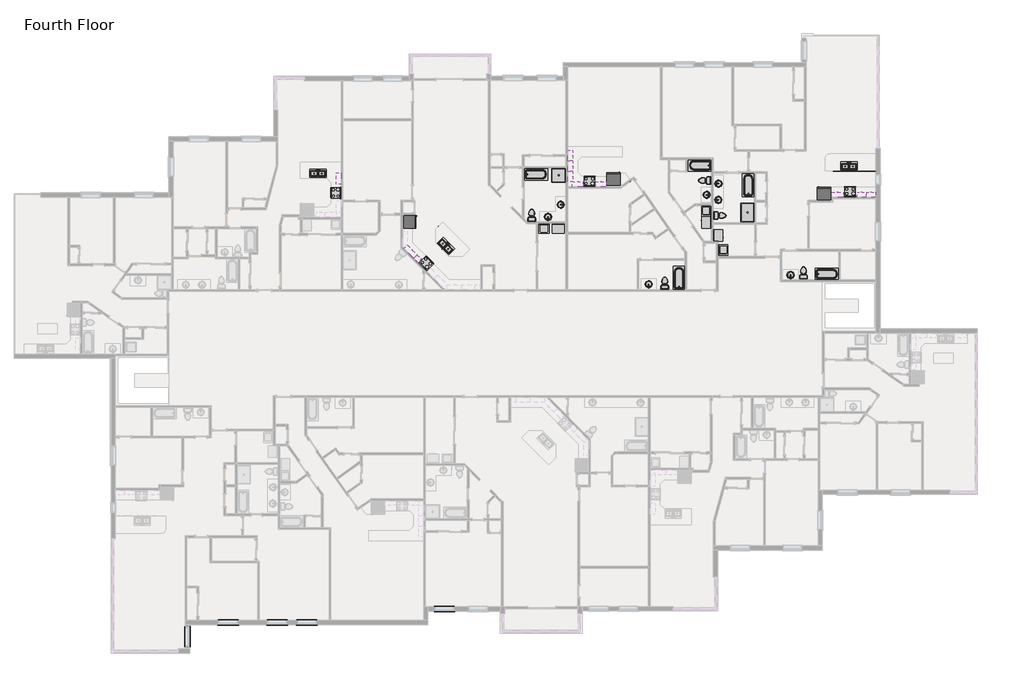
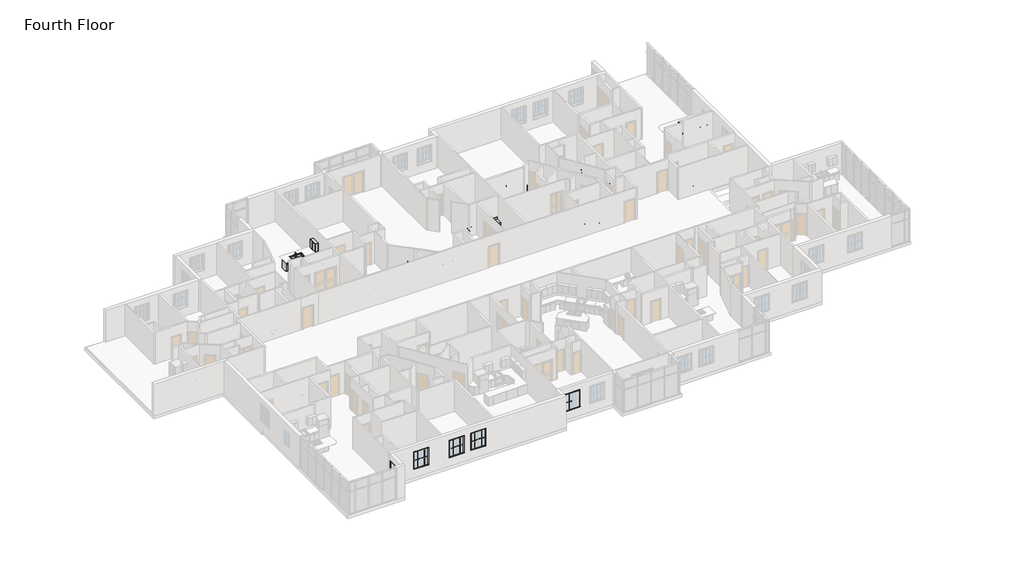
# One storey, part 16 of 17: 50 furniture elements, 32 proxies, 22 flow terminals.
"""IFC4 building model written with IfcOpenShell, lengths in millimetres."""

from ifc_helpers import new_model, si_unit, origin, place, context, project, spatial, transform, mapped, element, save
from components import proxy_6b4a07a9, muntin_pattern_2x2_muntin_pattern_2x2_6dad3731, muntin_pattern_2x2_muntin_pattern_2x2_a30a3345, proxy_fbb4c072, proxy_93150df1, proxy_9109806d, trim_window_exterior_flat_with_sill_92b9b949, trim_window_interior_flat_picture_frame_3bb882cf, proxy_718fa39f, flow_terminal_54cced83, flow_terminal_5dba0d75, flow_terminal_a53be723, flow_terminal_d49f872f, toilet_domestic_3d_toilet_domestic_3d_f7549cf7, toilet_domestic_3d_toilet_domestic_3d_183bbd19, tub_rectangular_3d_tub_rectangular_3d_72a4d900, tub_rectangular_3d_tub_rectangular_3d_cbc2c449, furniture_0fc2bd2a, furniture_337523c0, furniture_6e8794dd, furniture_07bc9410, furniture_6ace90bf, furniture_b282fead, furniture_6a014568, furniture_338da5bd, furniture_b74d3f52, furniture_7de88fd5, furniture_b4094f2d, furniture_07c0da44, furniture_bfd559e3, base_cabinet_filler_base_cabinet_filler_dff9ed13, base_cabinet_filler_base_cabinet_filler_01d9e414, base_cabinet_filler_base_cabinet_filler_890d7b95, base_cabinet_filler_base_cabinet_filler_ec835e29, base_cabinet_filler_base_cabinet_filler_5f1ac9d6, base_cabinet_filler_base_cabinet_filler_783ad0b1, base_cabinet_filler_base_cabinet_filler_ca2a3ea1, furniture_de2c603d, furniture_a8c34398, furniture_09d05a5b, furniture_b1f16c95, furniture_c6a3367d, furniture_a47b5ef4, furniture_9117db5d, furniture_b34976c1

model = new_model("IFC4")

# Units and contexts
model_context = context("Model", 3, world=origin())
ifc_project = project(units=[si_unit("LENGTHUNIT", "METRE", prefix="MILLI")], contexts=[model_context])

# Site, building, storey
site = spatial("IfcSite", under=ifc_project)
building = spatial("IfcBuilding", under=site)
storey = spatial("IfcBuildingStorey", under=building, Name="Fourth Floor", Elevation=9144.0)

# Proxies
placement = place(None, origin())
proxy_shape = proxy_6b4a07a9(model_context)
element("IfcBuildingElementProxy", 1, Name="Dryer : 30\" x 25\" x 35\"", ObjectType="Dryer : 30\" x 25\" x 35\"", at=placement, inside=storey, context=model_context, shape_type="MappedRepresentation", body=[
    mapped(proxy_shape, transform((35783.3803438, 6069.89864, 9144.0), x_axis=(1.0, 0.0, 0.0), y_axis=(0.0, 1.0, 0.0), z_axis=(0.0, 0.0, 1.0))),
])
element("IfcBuildingElementProxy", 2, Name="Dryer : 30\" x 25\" x 35\"", ObjectType="Dryer : 30\" x 25\" x 35\"", at=placement, inside=storey, context=model_context, shape_type="MappedRepresentation", body=[
    mapped(proxy_shape, transform((45605.9742487, 7175.2177628, 9144.0), x_axis=(0.0, -1.0, 0.0), y_axis=(1.0, 0.0, 0.0), z_axis=(0.0, 0.0, 1.0))),
])
element("IfcBuildingElementProxy", 3, Name="Dryer : 30\" x 25\" x 35\"", ObjectType="Dryer : 30\" x 25\" x 35\"", at=placement, inside=storey, context=model_context, shape_type="MappedRepresentation", body=[
    mapped(proxy_shape, transform((46984.5962563, 5488.2018914, 9144.0), x_axis=(0.0, 1.0, 0.0), y_axis=(-1.0, 0.0, 0.0), z_axis=(0.0, 0.0, 1.0))),
])
muntin_pattern_2x2_muntin_pattern_2x2_shape = muntin_pattern_2x2_muntin_pattern_2x2_6dad3731(model_context)
element("IfcBuildingElementProxy", 4, Name="Muntin Pattern_2x2 : Muntin Pattern_2x2", ObjectType="Muntin Pattern_2x2 : Muntin Pattern_2x2", at=placement, inside=storey, context=model_context, shape_type="MappedRepresentation", body=[
    mapped(muntin_pattern_2x2_muntin_pattern_2x2_shape, transform((20022.0240862, -19586.3365506, 10128.25), x_axis=(-1.0, 0.0, 0.0), y_axis=(0.0, -1.0, 0.0), z_axis=(0.0, 0.0, 1.0))),
])
element("IfcBuildingElementProxy", 5, Name="Muntin Pattern_2x2 : Muntin Pattern_2x2", ObjectType="Muntin Pattern_2x2 : Muntin Pattern_2x2", at=placement, inside=storey, context=model_context, shape_type="MappedRepresentation", body=[
    mapped(muntin_pattern_2x2_muntin_pattern_2x2_shape, transform((14867.9478712, -19586.3365506, 10128.25), x_axis=(-1.0, 0.0, 0.0), y_axis=(0.0, -1.0, 0.0), z_axis=(0.0, 0.0, 1.0))),
])
element("IfcBuildingElementProxy", 6, Name="Muntin Pattern_2x2 : Muntin Pattern_2x2", ObjectType="Muntin Pattern_2x2 : Muntin Pattern_2x2", at=placement, inside=storey, context=model_context, shape_type="MappedRepresentation", body=[
    mapped(muntin_pattern_2x2_muntin_pattern_2x2_shape, transform((18076.672872, -19586.3365506, 10128.25), x_axis=(-1.0, 0.0, 0.0), y_axis=(0.0, -1.0, 0.0), z_axis=(0.0, 0.0, 1.0))),
])
element("IfcBuildingElementProxy", 7, Name="Muntin Pattern_2x2 : Muntin Pattern_2x2", ObjectType="Muntin Pattern_2x2 : Muntin Pattern_2x2", at=placement, inside=storey, context=model_context, shape_type="MappedRepresentation", body=[
    mapped(muntin_pattern_2x2_muntin_pattern_2x2_shape, transform((12023.5634633, -20077.9243287, 10128.25), x_axis=(0.0, -1.0, 0.0), y_axis=(1.0, 0.0, 0.0), z_axis=(0.0, 0.0, 1.0))),
])
muntin_pattern_2x2_muntin_pattern_2x2_2_shape = muntin_pattern_2x2_muntin_pattern_2x2_a30a3345(model_context)
element("IfcBuildingElementProxy", 8, Name="Muntin Pattern_2x2 : Muntin Pattern_2x2", ObjectType="Muntin Pattern_2x2 : Muntin Pattern_2x2", at=placement, inside=storey, context=model_context, shape_type="MappedRepresentation", body=[
    mapped(muntin_pattern_2x2_muntin_pattern_2x2_2_shape, transform((19415.5990862, -19586.3365506, 10128.25), x_axis=(1.0, 0.0, 0.0), y_axis=(0.0, 1.0, 0.0), z_axis=(0.0, 0.0, 1.0))),
])
element("IfcBuildingElementProxy", 9, Name="Muntin Pattern_2x2 : Muntin Pattern_2x2", ObjectType="Muntin Pattern_2x2 : Muntin Pattern_2x2", at=placement, inside=storey, context=model_context, shape_type="MappedRepresentation", body=[
    mapped(muntin_pattern_2x2_muntin_pattern_2x2_2_shape, transform((14261.5228712, -19586.3365506, 10128.25), x_axis=(1.0, 0.0, 0.0), y_axis=(0.0, 1.0, 0.0), z_axis=(0.0, 0.0, 1.0))),
])
element("IfcBuildingElementProxy", 10, Name="Muntin Pattern_2x2 : Muntin Pattern_2x2", ObjectType="Muntin Pattern_2x2 : Muntin Pattern_2x2", at=placement, inside=storey, context=model_context, shape_type="MappedRepresentation", body=[
    mapped(muntin_pattern_2x2_muntin_pattern_2x2_2_shape, transform((28431.0115862, -18699.3191587, 10128.25), x_axis=(1.0, 0.0, 0.0), y_axis=(0.0, 1.0, 0.0), z_axis=(0.0, 0.0, 1.0))),
])
element("IfcBuildingElementProxy", 11, Name="Muntin Pattern_2x2 : Muntin Pattern_2x2", ObjectType="Muntin Pattern_2x2 : Muntin Pattern_2x2", at=placement, inside=storey, context=model_context, shape_type="MappedRepresentation", body=[
    mapped(muntin_pattern_2x2_muntin_pattern_2x2_2_shape, transform((17470.247872, -19586.3365506, 10128.25), x_axis=(1.0, 0.0, 0.0), y_axis=(0.0, 1.0, 0.0), z_axis=(0.0, 0.0, 1.0))),
])
element("IfcBuildingElementProxy", 12, Name="Muntin Pattern_2x2 : Muntin Pattern_2x2", ObjectType="Muntin Pattern_2x2 : Muntin Pattern_2x2", at=placement, inside=storey, context=model_context, shape_type="MappedRepresentation", body=[
    mapped(muntin_pattern_2x2_muntin_pattern_2x2_2_shape, transform((12023.5634633, -20684.3493287, 10128.25), x_axis=(0.0, 1.0, 0.0), y_axis=(-1.0, 0.0, 0.0), z_axis=(0.0, 0.0, 1.0))),
])
proxy_2_shape = proxy_fbb4c072(model_context)
element("IfcBuildingElementProxy", 13, Name="Range : 30\" x 26\"", ObjectType="Range : 30\" x 26\"", at=placement, inside=storey, context=model_context, shape_type="MappedRepresentation", body=[
    mapped(proxy_2_shape, transform((55706.1485135, 9105.3667096, 9144.0), x_axis=(-1.0, 0.0, 0.0), y_axis=(0.0, -1.0, 0.0), z_axis=(0.0, 0.0, 1.0))),
])
element("IfcBuildingElementProxy", 14, Name="Range : 30\" x 26\"", ObjectType="Range : 30\" x 26\"", at=placement, inside=storey, context=model_context, shape_type="MappedRepresentation", body=[
    mapped(proxy_2_shape, transform((38622.0783397, 9780.1410099, 9144.0), x_axis=(-1.0, 0.0, 0.0), y_axis=(0.0, -1.0, 0.0), z_axis=(0.0, 0.0, 1.0))),
])
element("IfcBuildingElementProxy", 15, Name="Range : 30\" x 26\"", ObjectType="Range : 30\" x 26\"", at=placement, inside=storey, context=model_context, shape_type="MappedRepresentation", body=[
    mapped(proxy_2_shape, transform((28043.6511381, 4045.4027795, 9144.0), x_axis=(-0.7071067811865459, 0.7071067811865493, 0.0), y_axis=(-0.7071067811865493, -0.7071067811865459, 0.0), z_axis=(0.0, 0.0, 1.0))),
])
element("IfcBuildingElementProxy", 16, Name="Range : 30\" x 26\"", ObjectType="Range : 30\" x 26\"", at=placement, inside=storey, context=model_context, shape_type="MappedRepresentation", body=[
    mapped(proxy_2_shape, transform((21305.5073571, 9084.405075, 9144.0), x_axis=(0.0, -1.0, 0.0), y_axis=(1.0, 0.0, 0.0), z_axis=(0.0, 0.0, 1.0))),
])
proxy_3_shape = proxy_93150df1(model_context)
element("IfcBuildingElementProxy", 17, Name="Refrigerator : 35\" x 32\" LH", ObjectType="Refrigerator : 35\" x 32\" LH", at=placement, inside=storey, context=model_context, shape_type="MappedRepresentation", body=[
    mapped(proxy_3_shape, transform((39817.0847694, 9590.3888634, 9144.0), x_axis=(-1.0, 0.0, 0.0), y_axis=(0.0, -1.0, 0.0), z_axis=(0.0, 0.0, 1.0))),
])
proxy_4_shape = proxy_9109806d(model_context)
element("IfcBuildingElementProxy", 18, Name="Refrigerator : 35\" x 32\" RH", ObjectType="Refrigerator : 35\" x 32\" RH", at=placement, inside=storey, context=model_context, shape_type="MappedRepresentation", body=[
    mapped(proxy_4_shape, transform((53624.9360135, 8648.9949749, 9144.0), x_axis=(-1.0, 0.0, 0.0), y_axis=(0.0, -1.0, 0.0), z_axis=(0.0, 0.0, 1.0))),
])
element("IfcBuildingElementProxy", 19, Name="Refrigerator : 35\" x 32\" RH", ObjectType="Refrigerator : 35\" x 32\" RH", at=placement, inside=storey, context=model_context, shape_type="MappedRepresentation", body=[
    mapped(proxy_4_shape, transform((26450.70388, 6811.7574244, 9144.0), x_axis=(0.0020172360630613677, 0.9999979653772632, 0.0), y_axis=(-0.9999979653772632, 0.0020172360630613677, 0.0), z_axis=(0.0, 0.0, 1.0))),
])
trim_window_exterior_flat_with_sill_shape = trim_window_exterior_flat_with_sill_92b9b949(model_context)
element("IfcBuildingElementProxy", 20, Name="Trim-Window-Exterior-Flat : with Sill", ObjectType="Trim-Window-Exterior-Flat : with Sill", at=placement, inside=storey, context=model_context, shape_type="MappedRepresentation", body=[
    mapped(trim_window_exterior_flat_with_sill_shape, transform((19718.8115862, -19595.8615506, 11582.4), x_axis=(1.0, 0.0, 0.0), y_axis=(0.0, 0.0, 1.0), z_axis=(0.0, -1.0, 0.0))),
])
element("IfcBuildingElementProxy", 21, Name="Trim-Window-Exterior-Flat : with Sill", ObjectType="Trim-Window-Exterior-Flat : with Sill", at=placement, inside=storey, context=model_context, shape_type="MappedRepresentation", body=[
    mapped(trim_window_exterior_flat_with_sill_shape, transform((14564.7353712, -19595.8615506, 11582.4), x_axis=(1.0, 0.0, 0.0), y_axis=(0.0, 0.0, 1.0), z_axis=(0.0, -1.0, 0.0))),
])
element("IfcBuildingElementProxy", 22, Name="Trim-Window-Exterior-Flat : with Sill", ObjectType="Trim-Window-Exterior-Flat : with Sill", at=placement, inside=storey, context=model_context, shape_type="MappedRepresentation", body=[
    mapped(trim_window_exterior_flat_with_sill_shape, transform((28734.2240862, -18708.8441587, 11582.4), x_axis=(1.0, 0.0, 0.0), y_axis=(0.0, 0.0, 1.0), z_axis=(0.0, -1.0, 0.0))),
])
element("IfcBuildingElementProxy", 23, Name="Trim-Window-Exterior-Flat : with Sill", ObjectType="Trim-Window-Exterior-Flat : with Sill", at=placement, inside=storey, context=model_context, shape_type="MappedRepresentation", body=[
    mapped(trim_window_exterior_flat_with_sill_shape, transform((17773.460372, -19595.8615506, 11582.4), x_axis=(1.0, 0.0, 0.0), y_axis=(0.0, 0.0, 1.0), z_axis=(0.0, -1.0, 0.0))),
])
element("IfcBuildingElementProxy", 24, Name="Trim-Window-Exterior-Flat : with Sill", ObjectType="Trim-Window-Exterior-Flat : with Sill", at=placement, inside=storey, context=model_context, shape_type="MappedRepresentation", body=[
    mapped(trim_window_exterior_flat_with_sill_shape, transform((12033.0884633, -20381.1368287, 11582.4), x_axis=(0.0, 1.0, 0.0), y_axis=(0.0, 0.0, 1.0), z_axis=(1.0, 0.0, 0.0))),
])
trim_window_interior_flat_picture_frame_shape = trim_window_interior_flat_picture_frame_3bb882cf(model_context)
element("IfcBuildingElementProxy", 25, Name="Trim-Window-Interior-Flat : Picture Frame", ObjectType="Trim-Window-Interior-Flat : Picture Frame", at=placement, inside=storey, context=model_context, shape_type="MappedRepresentation", body=[
    mapped(trim_window_interior_flat_picture_frame_shape, transform((19718.8115862, -19313.2865506, 11582.4), x_axis=(-1.0, 0.0, 0.0), y_axis=(0.0, 0.0, 1.0), z_axis=(0.0, 1.0, 0.0))),
])
element("IfcBuildingElementProxy", 26, Name="Trim-Window-Interior-Flat : Picture Frame", ObjectType="Trim-Window-Interior-Flat : Picture Frame", at=placement, inside=storey, context=model_context, shape_type="MappedRepresentation", body=[
    mapped(trim_window_interior_flat_picture_frame_shape, transform((14564.7353712, -19313.2865506, 11582.4), x_axis=(-1.0, 0.0, 0.0), y_axis=(0.0, 0.0, 1.0), z_axis=(0.0, 1.0, 0.0))),
])
element("IfcBuildingElementProxy", 27, Name="Trim-Window-Interior-Flat : Picture Frame", ObjectType="Trim-Window-Interior-Flat : Picture Frame", at=placement, inside=storey, context=model_context, shape_type="MappedRepresentation", body=[
    mapped(trim_window_interior_flat_picture_frame_shape, transform((28734.2240862, -18426.2691587, 11582.4), x_axis=(-1.0, 0.0, 0.0), y_axis=(0.0, 0.0, 1.0), z_axis=(0.0, 1.0, 0.0))),
])
element("IfcBuildingElementProxy", 28, Name="Trim-Window-Interior-Flat : Picture Frame", ObjectType="Trim-Window-Interior-Flat : Picture Frame", at=placement, inside=storey, context=model_context, shape_type="MappedRepresentation", body=[
    mapped(trim_window_interior_flat_picture_frame_shape, transform((17773.460372, -19313.2865506, 11582.4), x_axis=(-1.0, 0.0, 0.0), y_axis=(0.0, 0.0, 1.0), z_axis=(0.0, 1.0, 0.0))),
])
element("IfcBuildingElementProxy", 29, Name="Trim-Window-Interior-Flat : Picture Frame", ObjectType="Trim-Window-Interior-Flat : Picture Frame", at=placement, inside=storey, context=model_context, shape_type="MappedRepresentation", body=[
    mapped(trim_window_interior_flat_picture_frame_shape, transform((11750.5134633, -20381.1368287, 11582.4), x_axis=(0.0, -1.0, 0.0), y_axis=(0.0, 0.0, 1.0), z_axis=(-1.0, 0.0, 0.0))),
])
proxy_5_shape = proxy_718fa39f(model_context)
element("IfcBuildingElementProxy", 30, Name="Washer : 27\" x 25\" x 35\"", ObjectType="Washer : 27\" x 25\" x 35\"", at=placement, inside=storey, context=model_context, shape_type="MappedRepresentation", body=[
    mapped(proxy_5_shape, transform((34845.0746645, 6105.410079, 9144.0), x_axis=(1.0, 0.0, 0.0), y_axis=(0.0, 1.0, 0.0), z_axis=(0.0, 0.0, 1.0))),
])
element("IfcBuildingElementProxy", 31, Name="Washer : 27\" x 25\" x 35\"", ObjectType="Washer : 27\" x 25\" x 35\"", at=placement, inside=storey, context=model_context, shape_type="MappedRepresentation", body=[
    mapped(proxy_5_shape, transform((47265.412252, 4547.012838, 9144.0), x_axis=(0.0, 1.0, 0.0), y_axis=(-1.0, 0.0, 0.0), z_axis=(0.0, 0.0, 1.0))),
])
element("IfcBuildingElementProxy", 32, Name="Washer : 27\" x 25\" x 35\"", ObjectType="Washer : 27\" x 25\" x 35\"", at=placement, inside=storey, context=model_context, shape_type="MappedRepresentation", body=[
    mapped(proxy_5_shape, transform((45641.4856877, 7942.380883, 9144.0), x_axis=(0.0, -1.0, 0.0), y_axis=(1.0, 0.0, 0.0), z_axis=(0.0, 0.0, 1.0))),
])

# Flow terminals
flow_terminal_shape = flow_terminal_54cced83(model_context)
element("IfcFlowTerminal", 33, ObjectType="Shower Base-3D : 36\" x 36\"", at=placement, inside=storey, context=model_context, shape_type="MappedRepresentation", body=[
    mapped(flow_terminal_shape, transform((36225.8678001, 9849.9910099, 9144.0), x_axis=(1.0, 0.0, 0.0), y_axis=(0.0, 1.0, 0.0), z_axis=(0.0, 0.0, 1.0))),
])
flow_terminal_2_shape = flow_terminal_5dba0d75(model_context)
element("IfcFlowTerminal", 34, ObjectType="Shower Base-3D : 48\" x 34\"", at=placement, inside=storey, context=model_context, shape_type="MappedRepresentation", body=[
    mapped(flow_terminal_2_shape, transform((48606.6852525, 7416.8, 9144.0), x_axis=(0.0, 1.0, 0.0), y_axis=(-1.0, 0.0, 0.0), z_axis=(0.0, 0.0, 1.0))),
])
flow_terminal_3_shape = flow_terminal_a53be723(model_context)
element("IfcFlowTerminal", 35, ObjectType="Sink Kitchen-Double : 42\" x 21\"", at=placement, inside=storey, context=model_context, shape_type="MappedRepresentation", body=[
    mapped(flow_terminal_3_shape, transform((55238.0740966, 10470.4786098, 9144.0), x_axis=(1.0, 0.0, 0.0), y_axis=(0.0, 1.0, 0.0), z_axis=(0.0, 0.0, 1.0))),
])
element("IfcFlowTerminal", 36, ObjectType="Sink Kitchen-Double : 42\" x 21\"", at=placement, inside=storey, context=model_context, shape_type="MappedRepresentation", body=[
    mapped(flow_terminal_3_shape, transform((28820.7305792, 5237.5515776, 9144.0), x_axis=(0.7071067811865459, -0.7071067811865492, 0.0), y_axis=(0.7071067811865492, 0.7071067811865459, 0.0), z_axis=(0.0, 0.0, 1.0))),
])
element("IfcFlowTerminal", 37, ObjectType="Sink Kitchen-Double : 42\" x 21\"", at=placement, inside=storey, context=model_context, shape_type="MappedRepresentation", body=[
    mapped(flow_terminal_3_shape, transform((20432.5681165, 9996.4596739, 9144.0), x_axis=(1.0, 0.0, 0.0), y_axis=(0.0, 1.0, 0.0), z_axis=(0.0, 0.0, 1.0))),
])
flow_terminal_4_shape = flow_terminal_d49f872f(model_context)
element("IfcFlowTerminal", 38, ObjectType="Sink Vanity-Round : 19\" x 19\"", at=placement, inside=storey, context=model_context, shape_type="MappedRepresentation", body=[
    mapped(flow_terminal_4_shape, transform((51518.9261462, 3402.5686234, 9144.0), x_axis=(-1.0, 0.0, 0.0), y_axis=(0.0, -1.0, 0.0), z_axis=(0.0, 0.0, 1.0))),
])
element("IfcFlowTerminal", 39, ObjectType="Sink Vanity-Round : 19\" x 19\"", at=placement, inside=storey, context=model_context, shape_type="MappedRepresentation", body=[
    mapped(flow_terminal_4_shape, transform((46769.360735, 8145.114969, 9144.0), x_axis=(0.0, 1.0, 0.0), y_axis=(-1.0, 0.0, 0.0), z_axis=(0.0, 0.0, 1.0))),
])
element("IfcFlowTerminal", 40, ObjectType="Sink Vanity-Round : 19\" x 19\"", at=placement, inside=storey, context=model_context, shape_type="MappedRepresentation", body=[
    mapped(flow_terminal_4_shape, transform((46781.1377403, 9211.914969, 9144.0), x_axis=(0.0, 1.0, 0.0), y_axis=(-1.0, 0.0, 0.0), z_axis=(0.0, 0.0, 1.0))),
])
element("IfcFlowTerminal", 41, ObjectType="Sink Vanity-Round : 19\" x 19\"", at=placement, inside=storey, context=model_context, shape_type="MappedRepresentation", body=[
    mapped(flow_terminal_4_shape, transform((42218.0028589, 2791.1233129, 9144.0), x_axis=(-1.0, 0.0, 0.0), y_axis=(0.0, -1.0, 0.0), z_axis=(0.0, 0.0, 1.0))),
])
element("IfcFlowTerminal", 42, ObjectType="Sink Vanity-Round : 19\" x 19\"", at=placement, inside=storey, context=model_context, shape_type="MappedRepresentation", body=[
    mapped(flow_terminal_4_shape, transform((36278.8834938, 8026.036859, 9144.0), x_axis=(-0.0012471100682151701, -0.9999992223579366, 0.0), y_axis=(0.9999992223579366, -0.0012471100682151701, 0.0), z_axis=(0.0, 0.0, 1.0))),
])
element("IfcFlowTerminal", 43, ObjectType="Sink Vanity-Round : 19\" x 19\"", at=placement, inside=storey, context=model_context, shape_type="MappedRepresentation", body=[
    mapped(flow_terminal_4_shape, transform((35619.8891254, 7212.353211, 9144.0), x_axis=(-0.9999968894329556, 0.002494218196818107, 0.0), y_axis=(-0.002494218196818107, -0.9999968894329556, 0.0), z_axis=(0.0, 0.0, 1.0))),
])
element("IfcFlowTerminal", 44, ObjectType="Sink Vanity-Round : 19\" x 19\"", at=placement, inside=storey, context=model_context, shape_type="MappedRepresentation", body=[
    mapped(flow_terminal_4_shape, transform((45838.1211111, 8667.3095625, 9144.0), x_axis=(0.0, -1.0, 0.0), y_axis=(1.0, 0.0, 0.0), z_axis=(0.0, 0.0, 1.0))),
])
toilet_domestic_3d_toilet_domestic_3d_shape = toilet_domestic_3d_toilet_domestic_3d_f7549cf7(model_context)
toilet_domestic_3d_toilet_domestic_3d_2_shape = toilet_domestic_3d_toilet_domestic_3d_183bbd19(model_context)
element("IfcFlowTerminal", 45, ObjectType="Toilet-Domestic-3D : Toilet-Domestic-3D", at=placement, inside=storey, context=model_context, shape_type="MappedRepresentation", body=[
    mapped(toilet_domestic_3d_toilet_domestic_3d_shape, transform((52273.7982354, 3556.0, 9144.0), x_axis=(-1.0, 0.0, 0.0), y_axis=(0.0, -1.0, 0.0), z_axis=(0.0, 0.0, 1.0))),
    mapped(toilet_domestic_3d_toilet_domestic_3d_2_shape, transform((52273.7982354, 3556.0, 9144.0), x_axis=(-1.0, 0.0, 0.0), y_axis=(0.0, -1.0, 0.0), z_axis=(0.0, 0.0, 1.0))),
])
element("IfcFlowTerminal", 46, ObjectType="Toilet-Domestic-3D : Toilet-Domestic-3D", at=placement, inside=storey, context=model_context, shape_type="MappedRepresentation", body=[
    mapped(toilet_domestic_3d_toilet_domestic_3d_shape, transform((46888.4, 7213.6, 9144.0), x_axis=(0.0, 1.0, 0.0), y_axis=(-1.0, 0.0, 0.0), z_axis=(0.0, 0.0, 1.0))),
    mapped(toilet_domestic_3d_toilet_domestic_3d_2_shape, transform((46888.4, 7213.6, 9144.0), x_axis=(0.0, 1.0, 0.0), y_axis=(-1.0, 0.0, 0.0), z_axis=(0.0, 0.0, 1.0))),
])
element("IfcFlowTerminal", 47, ObjectType="Toilet-Domestic-3D : Toilet-Domestic-3D", at=placement, inside=storey, context=model_context, shape_type="MappedRepresentation", body=[
    mapped(toilet_domestic_3d_toilet_domestic_3d_shape, transform((45694.6, 9512.0893477, 9144.0), x_axis=(0.0, -1.0, 0.0), y_axis=(1.0, 0.0, 0.0), z_axis=(0.0, 0.0, 1.0))),
    mapped(toilet_domestic_3d_toilet_domestic_3d_2_shape, transform((45694.6, 9512.0893477, 9144.0), x_axis=(0.0, -1.0, 0.0), y_axis=(1.0, 0.0, 0.0), z_axis=(0.0, 0.0, 1.0))),
])
element("IfcFlowTerminal", 48, ObjectType="Toilet-Domestic-3D : Toilet-Domestic-3D", at=placement, inside=storey, context=model_context, shape_type="MappedRepresentation", body=[
    mapped(toilet_domestic_3d_toilet_domestic_3d_shape, transform((43180.0, 2882.9, 9144.0), x_axis=(-1.0, 0.0, 0.0), y_axis=(0.0, -1.0, 0.0), z_axis=(0.0, 0.0, 1.0))),
    mapped(toilet_domestic_3d_toilet_domestic_3d_2_shape, transform((43180.0, 2882.9, 9144.0), x_axis=(-1.0, 0.0, 0.0), y_axis=(0.0, -1.0, 0.0), z_axis=(0.0, 0.0, 1.0))),
])
element("IfcFlowTerminal", 49, ObjectType="Toilet-Domestic-3D : Toilet-Domestic-3D", at=placement, inside=storey, context=model_context, shape_type="MappedRepresentation", body=[
    mapped(toilet_domestic_3d_toilet_domestic_3d_shape, transform((34456.7727327, 7333.4715848, 9144.0), x_axis=(-1.0, 0.0, 0.0), y_axis=(0.0, -1.0, 0.0), z_axis=(0.0, 0.0, 1.0))),
    mapped(toilet_domestic_3d_toilet_domestic_3d_2_shape, transform((34456.7727327, 7333.4715848, 9144.0), x_axis=(-1.0, 0.0, 0.0), y_axis=(0.0, -1.0, 0.0), z_axis=(0.0, 0.0, 1.0))),
])
tub_rectangular_3d_tub_rectangular_3d_shape = tub_rectangular_3d_tub_rectangular_3d_72a4d900(model_context)
element("IfcFlowTerminal", 50, ObjectType="Tub-Rectangular-3D : Tub-Rectangular-3D", at=placement, inside=storey, context=model_context, shape_type="MappedRepresentation", body=[
    mapped(tub_rectangular_3d_tub_rectangular_3d_shape, transform((44549.1449591, 3463.6121401, 9144.0), x_axis=(0.0, 1.0, 0.0), y_axis=(-1.0, 0.0, 0.0), z_axis=(0.0, 0.0, 1.0))),
])
element("IfcFlowTerminal", 51, ObjectType="Tub-Rectangular-3D : Tub-Rectangular-3D", at=placement, inside=storey, context=model_context, shape_type="MappedRepresentation", body=[
    mapped(tub_rectangular_3d_tub_rectangular_3d_shape, transform((45138.2869119, 10944.1378349, 9144.0), x_axis=(-1.0, 0.0, 0.0), y_axis=(0.0, -1.0, 0.0), z_axis=(0.0, 0.0, 1.0))),
])
element("IfcFlowTerminal", 52, ObjectType="Tub-Rectangular-3D : Tub-Rectangular-3D", at=placement, inside=storey, context=model_context, shape_type="MappedRepresentation", body=[
    mapped(tub_rectangular_3d_tub_rectangular_3d_shape, transform((49089.4772963, 9555.5696783, 9144.0), x_axis=(0.0, 1.0, 0.0), y_axis=(-1.0, 0.0, 0.0), z_axis=(0.0, 0.0, 1.0))),
])
element("IfcFlowTerminal", 53, ObjectType="Tub-Rectangular-3D : Tub-Rectangular-3D", at=placement, inside=storey, context=model_context, shape_type="MappedRepresentation", body=[
    mapped(tub_rectangular_3d_tub_rectangular_3d_shape, transform((54149.0676523, 2945.4044819, 9144.0), x_axis=(1.0, 0.0, 0.0), y_axis=(0.0, 1.0, 0.0), z_axis=(0.0, 0.0, 1.0))),
])
tub_rectangular_3d_tub_rectangular_3d_2_shape = tub_rectangular_3d_tub_rectangular_3d_cbc2c449(model_context)
element("IfcFlowTerminal", 54, ObjectType="Tub-Rectangular-3D : Tub-Rectangular-3D", at=placement, inside=storey, context=model_context, shape_type="MappedRepresentation", body=[
    mapped(tub_rectangular_3d_tub_rectangular_3d_2_shape, transform((35083.0533193, 10357.9910099, 9144.0), x_axis=(1.0, 0.0, 0.0), y_axis=(0.0, 1.0, 0.0), z_axis=(0.0, 0.0, 1.0))),
])

# Furniture
furniture_shape = furniture_0fc2bd2a(model_context)
element("IfcFurniture", 55, ObjectType="Base Cabinet-Single Door & Drawer : 15\"'", at=placement, inside=storey, context=model_context, shape_type="MappedRepresentation", body=[
    mapped(furniture_shape, transform((56797.1256323, 10752.2240109, 9144.0), x_axis=(1.0, 0.0, 0.0), y_axis=(0.0, 1.0, 0.0), z_axis=(0.0, 0.0, 1.0))),
])
element("IfcFurniture", 56, ObjectType="Base Cabinet-Single Door & Drawer : 15\"'", at=placement, inside=storey, context=model_context, shape_type="MappedRepresentation", body=[
    mapped(furniture_shape, transform((26379.2350583, 4778.534813, 9144.0), x_axis=(-0.7056789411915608, 0.7085317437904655, 0.0), y_axis=(-0.7085317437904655, -0.7056789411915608, 0.0), z_axis=(0.0, 0.0, 1.0))),
])
furniture_2_shape = furniture_337523c0(model_context)
element("IfcFurniture", 57, ObjectType="Base Cabinet-Single Door & Drawer : 12\"", at=placement, inside=storey, context=model_context, shape_type="MappedRepresentation", body=[
    mapped(furniture_2_shape, transform((21965.9073571, 8151.2673701, 9144.0), x_axis=(0.0, 1.0, 0.0), y_axis=(-1.0, 0.0, 0.0), z_axis=(0.0, 0.0, 1.0))),
])
furniture_3_shape = furniture_6e8794dd(model_context)
element("IfcFurniture", 58, ObjectType="Base Cabinet-Single Door & Drawer : 12\"", at=placement, inside=storey, context=model_context, shape_type="MappedRepresentation", body=[
    mapped(furniture_3_shape, transform((21965.9073571, 9255.5427799, 9144.0), x_axis=(0.0, -1.0, 0.0), y_axis=(1.0, 0.0, 0.0), z_axis=(0.0, 0.0, 1.0))),
])
furniture_4_shape = furniture_07bc9410(model_context)
element("IfcFurniture", 59, ObjectType="Base Cabinet-Single Door & Drawer : 18\"", at=placement, inside=storey, context=model_context, shape_type="MappedRepresentation", body=[
    mapped(furniture_4_shape, transform((56766.9108085, 8422.9542414, 9144.0), x_axis=(1.0, 0.0, 0.0), y_axis=(0.0, 1.0, 0.0), z_axis=(0.0, 0.0, 1.0))),
])
furniture_5_shape = furniture_6ace90bf(model_context)
element("IfcFurniture", 60, ObjectType="Base Cabinet-Single Door & Drawer : 18\"", at=placement, inside=storey, context=model_context, shape_type="MappedRepresentation", body=[
    mapped(furniture_5_shape, transform((54396.8256323, 10752.2240109, 9144.0), x_axis=(1.0, 0.0, 0.0), y_axis=(0.0, 1.0, 0.0), z_axis=(0.0, 0.0, 1.0))),
])
element("IfcFurniture", 61, ObjectType="Base Cabinet-Single Door & Drawer : 18\"", at=placement, inside=storey, context=model_context, shape_type="MappedRepresentation", body=[
    mapped(furniture_5_shape, transform((40152.0280135, 11733.611548, 9144.0), x_axis=(1.0, 0.0, 0.0), y_axis=(0.0, 1.0, 0.0), z_axis=(0.0, 0.0, 1.0))),
])
furniture_6_shape = furniture_b282fead(model_context)
element("IfcFurniture", 62, ObjectType="Base Cabinet-Single Door & Drawer : 21\"", at=placement, inside=storey, context=model_context, shape_type="MappedRepresentation", body=[
    mapped(furniture_6_shape, transform((19553.2196522, 10303.605075, 9144.0), x_axis=(1.0, 0.0, 0.0), y_axis=(0.0, 1.0, 0.0), z_axis=(0.0, 0.0, 1.0))),
])
furniture_7_shape = furniture_6a014568(model_context)
element("IfcFurniture", 63, ObjectType="Base Cabinet-Single Door & Drawer : 24\"", at=placement, inside=storey, context=model_context, shape_type="MappedRepresentation", body=[
    mapped(furniture_7_shape, transform((28846.7325549, 6103.4702041, 9144.0), x_axis=(-0.7071067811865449, -0.7071067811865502, 0.0), y_axis=(0.7071067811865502, -0.7071067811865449, 0.0), z_axis=(0.0, 0.0, 1.0))),
])
element("IfcFurniture", 64, ObjectType="Base Cabinet-Single Door & Drawer : 24\"", at=placement, inside=storey, context=model_context, shape_type="MappedRepresentation", body=[
    mapped(furniture_7_shape, transform((29682.3380261, 5214.8665001, 9144.0), x_axis=(0.7071067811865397, 0.7071067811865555, 0.0), y_axis=(-0.7071067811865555, 0.7071067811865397, 0.0), z_axis=(0.0, 0.0, 1.0))),
])
furniture_8_shape = furniture_338da5bd(model_context)
element("IfcFurniture", 65, ObjectType="Base Cabinet-Double Door & 2 Drawer : 30\"", at=placement, inside=storey, context=model_context, shape_type="MappedRepresentation", body=[
    mapped(furniture_8_shape, transform((56225.6256323, 10752.2240109, 9144.0), x_axis=(1.0, 0.0, 0.0), y_axis=(0.0, 1.0, 0.0), z_axis=(0.0, 0.0, 1.0))),
])
element("IfcFurniture", 66, ObjectType="Base Cabinet-Double Door & 2 Drawer : 30\"", at=placement, inside=storey, context=model_context, shape_type="MappedRepresentation", body=[
    mapped(furniture_8_shape, transform((36816.4178001, 10406.7738431, 9144.0), x_axis=(0.0, 1.0, 0.0), y_axis=(-1.0, 0.0, 0.0), z_axis=(0.0, 0.0, 1.0))),
])
element("IfcFurniture", 67, ObjectType="Base Cabinet-Double Door & 2 Drawer : 30\"", at=placement, inside=storey, context=model_context, shape_type="MappedRepresentation", body=[
    mapped(furniture_8_shape, transform((39016.6724743, 9119.7410099, 9144.0), x_axis=(-1.0, 0.0, 0.0), y_axis=(0.0, -1.0, 0.0), z_axis=(0.0, 0.0, 1.0))),
])
furniture_9_shape = furniture_b74d3f52(model_context)
element("IfcFurniture", 68, ObjectType="Base Cabinet-Double Door & 2 Drawer : 33\"", at=placement, inside=storey, context=model_context, shape_type="MappedRepresentation", body=[
    mapped(furniture_9_shape, transform((56106.5108085, 8422.9542414, 9144.0), x_axis=(1.0, 0.0, 0.0), y_axis=(0.0, 1.0, 0.0), z_axis=(0.0, 0.0, 1.0))),
])
furniture_10_shape = furniture_7de88fd5(model_context)
element("IfcFurniture", 69, ObjectType="Base Cabinet-Double Door & 2 Drawer : 33\"", at=placement, inside=storey, context=model_context, shape_type="MappedRepresentation", body=[
    mapped(furniture_10_shape, transform((54543.7862184, 8422.9542414, 9144.0), x_axis=(-1.0, 0.0, 0.0), y_axis=(0.0, -1.0, 0.0), z_axis=(0.0, 0.0, 1.0))),
])
furniture_11_shape = furniture_b4094f2d(model_context)
element("IfcFurniture", 70, ObjectType="Base Cabinet-Double Door & 2 Drawer : 39\"", at=placement, inside=storey, context=model_context, shape_type="MappedRepresentation", body=[
    mapped(furniture_11_shape, transform((38207.3800952, 11733.611548, 9144.0), x_axis=(1.0, 0.0, 0.0), y_axis=(0.0, 1.0, 0.0), z_axis=(0.0, 0.0, 1.0))),
])
furniture_12_shape = furniture_07c0da44(model_context)
element("IfcFurniture", 71, ObjectType="Base Cabinet-Double Door & 2 Drawer : 48\"", at=placement, inside=storey, context=model_context, shape_type="MappedRepresentation", body=[
    mapped(furniture_12_shape, transform((55235.0256323, 10752.2240109, 9144.0), x_axis=(1.0, 0.0, 0.0), y_axis=(0.0, 1.0, 0.0), z_axis=(0.0, 0.0, 1.0))),
])
element("IfcFurniture", 72, ObjectType="Base Cabinet-Double Door & 2 Drawer : 48\"", at=placement, inside=storey, context=model_context, shape_type="MappedRepresentation", body=[
    mapped(furniture_12_shape, transform((39313.8280135, 11733.611548, 9144.0), x_axis=(1.0, 0.0, 0.0), y_axis=(0.0, 1.0, 0.0), z_axis=(0.0, 0.0, 1.0))),
])
element("IfcFurniture", 73, ObjectType="Base Cabinet-Double Door & 2 Drawer : 48\"", at=placement, inside=storey, context=model_context, shape_type="MappedRepresentation", body=[
    mapped(furniture_12_shape, transform((29035.7595853, 5456.8917634, 9144.0), x_axis=(0.7071067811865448, -0.7071067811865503, 0.0), y_axis=(0.7071067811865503, 0.7071067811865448, 0.0), z_axis=(0.0, 0.0, 1.0))),
])
element("IfcFurniture", 74, ObjectType="Base Cabinet-Double Door & 2 Drawer : 48\"", at=placement, inside=storey, context=model_context, shape_type="MappedRepresentation", body=[
    mapped(furniture_12_shape, transform((29062.2587018, 5430.392647, 9144.0), x_axis=(-0.7071067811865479, 0.7071067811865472, 0.0), y_axis=(-0.7071067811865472, -0.7071067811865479, 0.0), z_axis=(0.0, 0.0, 1.0))),
])
element("IfcFurniture", 75, ObjectType="Base Cabinet-Double Door & 2 Drawer : 48\"", at=placement, inside=storey, context=model_context, shape_type="MappedRepresentation", body=[
    mapped(furniture_12_shape, transform((20429.5196522, 10303.605075, 9144.0), x_axis=(1.0, 0.0, 0.0), y_axis=(0.0, 1.0, 0.0), z_axis=(0.0, 0.0, 1.0))),
])
furniture_13_shape = furniture_bfd559e3(model_context)
element("IfcFurniture", 76, ObjectType="Base Cabinet-Corner Unit-Angled : 36\"", at=placement, inside=storey, context=model_context, shape_type="MappedRepresentation", body=[
    mapped(furniture_13_shape, transform((36816.4178001, 11206.8738431, 9144.0), x_axis=(0.0, 1.0, 0.0), y_axis=(-1.0, 0.0, 0.0), z_axis=(0.0, 0.0, 1.0))),
])
element("IfcFurniture", 77, ObjectType="Base Cabinet-Corner Unit-Angled : 36\"", at=placement, inside=storey, context=model_context, shape_type="MappedRepresentation", body=[
    mapped(furniture_13_shape, transform((37343.155505, 9119.7410099, 9144.0), x_axis=(-1.0, 0.0, 0.0), y_axis=(0.0, -1.0, 0.0), z_axis=(0.0, 0.0, 1.0))),
])
element("IfcFurniture", 78, ObjectType="Base Cabinet-Corner Unit-Angled : 36\"", at=placement, inside=storey, context=model_context, shape_type="MappedRepresentation", body=[
    mapped(furniture_13_shape, transform((21445.5196522, 10303.605075, 9144.0), x_axis=(1.0, 0.0, 0.0), y_axis=(0.0, 1.0, 0.0), z_axis=(0.0, 0.0, 1.0))),
])
base_cabinet_filler_base_cabinet_filler_shape = base_cabinet_filler_base_cabinet_filler_dff9ed13(model_context)
element("IfcFurniture", 79, ObjectType="Base Cabinet-Filler : Base Cabinet-Filler", at=placement, inside=storey, context=model_context, shape_type="MappedRepresentation", body=[
    mapped(base_cabinet_filler_base_cabinet_filler_shape, transform((56569.4362184, 8422.9542414, 9144.0), x_axis=(-1.0, 0.0, 0.0), y_axis=(0.0, -1.0, 0.0), z_axis=(0.0, 0.0, 1.0))),
])
element("IfcFurniture", 80, ObjectType="Base Cabinet-Filler : Base Cabinet-Filler", at=placement, inside=storey, context=model_context, shape_type="MappedRepresentation", body=[
    mapped(base_cabinet_filler_base_cabinet_filler_shape, transform((36816.4178001, 10794.1238431, 9144.0), x_axis=(0.0, 1.0, 0.0), y_axis=(-1.0, 0.0, 0.0), z_axis=(0.0, 0.0, 1.0))),
])
base_cabinet_filler_base_cabinet_filler_2_shape = base_cabinet_filler_base_cabinet_filler_01d9e414(model_context)
element("IfcFurniture", 81, ObjectType="Base Cabinet-Filler : Base Cabinet-Filler", at=placement, inside=storey, context=model_context, shape_type="MappedRepresentation", body=[
    mapped(base_cabinet_filler_base_cabinet_filler_2_shape, transform((54103.2549684, 8422.9542414, 9144.0), x_axis=(-1.0, 0.0, 0.0), y_axis=(0.0, -1.0, 0.0), z_axis=(0.0, 0.0, 1.0))),
])
base_cabinet_filler_base_cabinet_filler_3_shape = base_cabinet_filler_base_cabinet_filler_890d7b95(model_context)
element("IfcFurniture", 82, ObjectType="Base Cabinet-Filler : Base Cabinet-Filler", at=placement, inside=storey, context=model_context, shape_type="MappedRepresentation", body=[
    mapped(base_cabinet_filler_base_cabinet_filler_3_shape, transform((37814.1857749, 9119.7410099, 9144.0), x_axis=(-1.0, 0.0, 0.0), y_axis=(0.0, -1.0, 0.0), z_axis=(0.0, 0.0, 1.0))),
])
base_cabinet_filler_base_cabinet_filler_4_shape = base_cabinet_filler_base_cabinet_filler_ec835e29(model_context)
element("IfcFurniture", 83, ObjectType="Base Cabinet-Filler : Base Cabinet-Filler", at=placement, inside=storey, context=model_context, shape_type="MappedRepresentation", body=[
    mapped(base_cabinet_filler_base_cabinet_filler_4_shape, transform((36816.4178001, 10020.588574, 9144.0), x_axis=(0.0, 1.0, 0.0), y_axis=(-1.0, 0.0, 0.0), z_axis=(0.0, 0.0, 1.0))),
])
base_cabinet_filler_base_cabinet_filler_5_shape = base_cabinet_filler_base_cabinet_filler_5f1ac9d6(model_context)
element("IfcFurniture", 84, ObjectType="Base Cabinet-Filler : Base Cabinet-Filler", at=placement, inside=storey, context=model_context, shape_type="MappedRepresentation", body=[
    mapped(base_cabinet_filler_base_cabinet_filler_5_shape, transform((26218.4790677, 4939.8859635, 9144.0), x_axis=(-0.7071067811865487, 0.7071067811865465, 0.0), y_axis=(-0.7071067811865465, -0.7071067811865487, 0.0), z_axis=(0.0, 0.0, 1.0))),
])
base_cabinet_filler_base_cabinet_filler_6_shape = base_cabinet_filler_base_cabinet_filler_783ad0b1(model_context)
element("IfcFurniture", 85, ObjectType="Base Cabinet-Filler : Base Cabinet-Filler", at=placement, inside=storey, context=model_context, shape_type="MappedRepresentation", body=[
    mapped(base_cabinet_filler_base_cabinet_filler_6_shape, transform((40434.2606244, 9359.1610724, 9144.0), x_axis=(-1.0, 0.0, 0.0), y_axis=(0.0, -1.0, 0.0), z_axis=(0.0, 0.0, 1.0))),
])
base_cabinet_filler_base_cabinet_filler_7_shape = base_cabinet_filler_base_cabinet_filler_ca2a3ea1(model_context)
element("IfcFurniture", 86, ObjectType="Base Cabinet-Filler : Base Cabinet-Filler", at=placement, inside=storey, context=model_context, shape_type="MappedRepresentation", body=[
    mapped(base_cabinet_filler_base_cabinet_filler_7_shape, transform((40263.4113047, 9344.8085699, 9144.0), x_axis=(-0.573576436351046, 0.8191520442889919, 0.0), y_axis=(-0.8191520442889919, -0.573576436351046, 0.0), z_axis=(0.0, 0.0, 1.0))),
])
furniture_14_shape = furniture_de2c603d(model_context)
element("IfcFurniture", 87, ObjectType="Upper Cabinet-Double Door-Wall : 24\"", at=placement, inside=storey, context=model_context, shape_type="MappedRepresentation", body=[
    mapped(furniture_14_shape, transform((56674.1251076, 8368.7667096, 9144.0), x_axis=(1.0, 0.0, 0.0), y_axis=(0.0, 1.0, 0.0), z_axis=(0.0, 0.0, 1.0))),
])
element("IfcFurniture", 88, ObjectType="Upper Cabinet-Double Door-Wall : 24\"", at=placement, inside=storey, context=model_context, shape_type="MappedRepresentation", body=[
    mapped(furniture_14_shape, transform((56064.5251076, 8368.7667096, 9144.0), x_axis=(1.0, 0.0, 0.0), y_axis=(0.0, 1.0, 0.0), z_axis=(0.0, 0.0, 1.0))),
])
furniture_15_shape = furniture_a8c34398(model_context)
element("IfcFurniture", 89, ObjectType="Upper Cabinet-Double Door-Wall : 27\"", at=placement, inside=storey, context=model_context, shape_type="MappedRepresentation", body=[
    mapped(furniture_15_shape, transform((38964.6966373, 9062.5910099, 9144.0), x_axis=(1.0, 0.0, 0.0), y_axis=(0.0, 1.0, 0.0), z_axis=(0.0, 0.0, 1.0))),
])
element("IfcFurniture", 90, ObjectType="Upper Cabinet-Double Door-Wall : 27\"", at=placement, inside=storey, context=model_context, shape_type="MappedRepresentation", body=[
    mapped(furniture_15_shape, transform((37434.3466373, 9062.5910099, 9144.0), x_axis=(1.0, 0.0, 0.0), y_axis=(0.0, 1.0, 0.0), z_axis=(0.0, 0.0, 1.0))),
])
element("IfcFurniture", 91, ObjectType="Upper Cabinet-Double Door-Wall : 27\"", at=placement, inside=storey, context=model_context, shape_type="MappedRepresentation", body=[
    mapped(furniture_15_shape, transform((36759.2678001, 9797.2121727, 9144.0), x_axis=(0.0, -1.0, 0.0), y_axis=(1.0, 0.0, 0.0), z_axis=(0.0, 0.0, 1.0))),
])
element("IfcFurniture", 92, ObjectType="Upper Cabinet-Double Door-Wall : 27\"", at=placement, inside=storey, context=model_context, shape_type="MappedRepresentation", body=[
    mapped(furniture_15_shape, transform((36759.2678001, 10483.0121727, 9144.0), x_axis=(0.0, -1.0, 0.0), y_axis=(1.0, 0.0, 0.0), z_axis=(0.0, 0.0, 1.0))),
])
furniture_16_shape = furniture_09d05a5b(model_context)
element("IfcFurniture", 93, ObjectType="Upper Cabinet-Double Door-Wall : 27\"", at=placement, inside=storey, context=model_context, shape_type="MappedRepresentation", body=[
    mapped(furniture_16_shape, transform((36759.2678001, 11109.2698471, 9144.0), x_axis=(0.0, 1.0, 0.0), y_axis=(-1.0, 0.0, 0.0), z_axis=(0.0, 0.0, 1.0))),
])
furniture_17_shape = furniture_b1f16c95(model_context)
element("IfcFurniture", 94, ObjectType="Upper Cabinet-Double Door-Wall : 30\"", at=placement, inside=storey, context=model_context, shape_type="MappedRepresentation", body=[
    mapped(furniture_17_shape, transform((54482.5773507, 8368.7667096, 9144.0), x_axis=(1.0, 0.0, 0.0), y_axis=(0.0, 1.0, 0.0), z_axis=(0.0, 0.0, 1.0))),
])
element("IfcFurniture", 95, ObjectType="Upper Cabinet-Double Door-Wall : 30\"", at=placement, inside=storey, context=model_context, shape_type="MappedRepresentation", body=[
    mapped(furniture_17_shape, transform((22023.0573571, 9611.4358332, 9144.0), x_axis=(0.0, 1.0, 0.0), y_axis=(-1.0, 0.0, 0.0), z_axis=(0.0, 0.0, 1.0))),
])
furniture_18_shape = furniture_c6a3367d(model_context)
element("IfcFurniture", 96, ObjectType="Upper Cabinet-Double Door-Wall : 36\"", at=placement, inside=storey, context=model_context, shape_type="MappedRepresentation", body=[
    mapped(furniture_18_shape, transform((26346.780607, 4715.1954791, 9144.0), x_axis=(0.707106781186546, -0.7071067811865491, 0.0), y_axis=(0.7071067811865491, 0.707106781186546, 0.0), z_axis=(0.0, 0.0, 1.0))),
])
furniture_19_shape = furniture_a47b5ef4(model_context)
element("IfcFurniture", 97, ObjectType="Upper Cabinet-Single Door-Wall : 15\"", at=placement, inside=storey, context=model_context, shape_type="MappedRepresentation", body=[
    mapped(furniture_19_shape, transform((26846.8764513, 4215.0996347, 9144.0), x_axis=(-0.707106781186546, 0.7071067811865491, 0.0), y_axis=(-0.7071067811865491, -0.707106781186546, 0.0), z_axis=(0.0, 0.0, 1.0))),
])
furniture_20_shape = furniture_9117db5d(model_context)
element("IfcFurniture", 98, ObjectType="Vanity Cabinet-Double Door Sink Unit : 39\"", at=placement, inside=storey, context=model_context, shape_type="MappedRepresentation", body=[
    mapped(furniture_20_shape, transform((51441.0121106, 3002.5544819, 9144.0), x_axis=(-1.0, 0.0, 0.0), y_axis=(0.0, -1.0, 0.0), z_axis=(0.0, 0.0, 1.0))),
])
element("IfcFurniture", 99, ObjectType="Vanity Cabinet-Double Door Sink Unit : 39\"", at=placement, inside=storey, context=model_context, shape_type="MappedRepresentation", body=[
    mapped(furniture_20_shape, transform((42140.0888233, 2391.1091714, 9144.0), x_axis=(-1.0, 0.0, 0.0), y_axis=(0.0, -1.0, 0.0), z_axis=(0.0, 0.0, 1.0))),
])
element("IfcFurniture", 100, ObjectType="Vanity Cabinet-Double Door Sink Unit : 39\"", at=placement, inside=storey, context=model_context, shape_type="MappedRepresentation", body=[
    mapped(furniture_20_shape, transform((46238.1352525, 8589.3955268, 9144.0), x_axis=(0.0, -1.0, 0.0), y_axis=(1.0, 0.0, 0.0), z_axis=(0.0, 0.0, 1.0))),
])
furniture_21_shape = furniture_b34976c1(model_context)
element("IfcFurniture", 101, ObjectType="Vanity Cabinet-Double Door Sink Unit : 42\"", at=placement, inside=storey, context=model_context, shape_type="MappedRepresentation", body=[
    mapped(furniture_21_shape, transform((46371.4852525, 9289.8290047, 9144.0), x_axis=(0.0, 1.0, 0.0), y_axis=(-1.0, 0.0, 0.0), z_axis=(0.0, 0.0, 1.0))),
])
element("IfcFurniture", 102, ObjectType="Vanity Cabinet-Double Door Sink Unit : 42\"", at=placement, inside=storey, context=model_context, shape_type="MappedRepresentation", body=[
    mapped(furniture_21_shape, transform((46371.4852525, 8223.0290047, 9144.0), x_axis=(0.0, 1.0, 0.0), y_axis=(-1.0, 0.0, 0.0), z_axis=(0.0, 0.0, 1.0))),
])
element("IfcFurniture", 103, ObjectType="Vanity Cabinet-Double Door Sink Unit : 42\"", at=placement, inside=storey, context=model_context, shape_type="MappedRepresentation", body=[
    mapped(furniture_21_shape, transform((35540.9535695, 6802.8963321, 9144.0), x_axis=(-0.9999968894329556, 0.002494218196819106, 0.0), y_axis=(-0.002494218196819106, -0.9999968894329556, 0.0), z_axis=(0.0, 0.0, 1.0))),
])
element("IfcFurniture", 104, ObjectType="Vanity Cabinet-Double Door Sink Unit : 42\"", at=placement, inside=storey, context=model_context, shape_type="MappedRepresentation", body=[
    mapped(furniture_21_shape, transform((36676.6614995, 7947.6266894, 9144.0), x_axis=(-0.0012471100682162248, -0.9999992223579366, 0.0), y_axis=(0.9999992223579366, -0.0012471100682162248, 0.0), z_axis=(0.0, 0.0, 1.0))),
])

save(model, "model.ifc")
